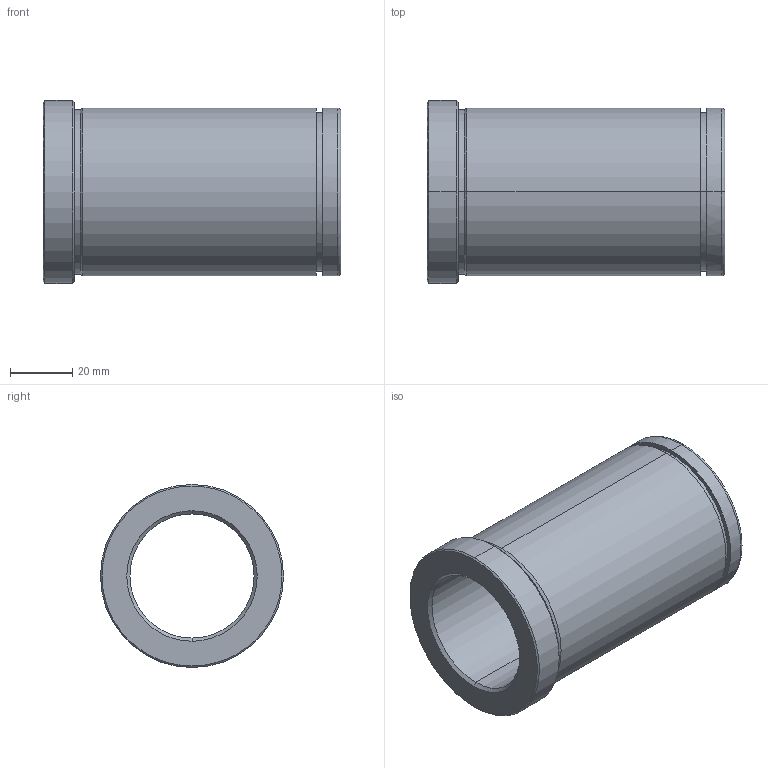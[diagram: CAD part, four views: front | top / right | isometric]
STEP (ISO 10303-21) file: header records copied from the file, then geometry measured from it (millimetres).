
FILE_DESCRIPTION(('CATIA V5 STEP Exchange'),'2;1');
FILE_NAME('C:\Users\Utente\Desktop\IO LAVORO\3D X SITO CF\X SITO\PLASTICA\553\553-40X96.stp','2021-06-03T18:26:55+00:00',('none'),('none'),'CATIA Version 5 Release 20 GA (IN-10)','CATIA V5 STEP AP203','none');
FILE_SCHEMA(('CONFIG_CONTROL_DESIGN'));
Length unit declared in the file: millimetre
Products named in the file (1): 553-40X96
Bounding box: 96 x 59 x 59 mm (x, y, z)
Volume: 102589.7 mm3; surface area: 31633.3 mm2
Topology: 1 solids, 1 shells, 29 faces, 92 edges, 68 vertices
Faces by surface type: cylinder 12, cone 8, plane 5, torus 4
Entity records: 1222 total; most frequent: CARTESIAN_POINT 368, ORIENTED_EDGE 184, DIRECTION 136, EDGE_CURVE 92, AXIS2_PLACEMENT_3D 88, VERTEX_POINT 68, CIRCLE 58, EDGE_LOOP 34
